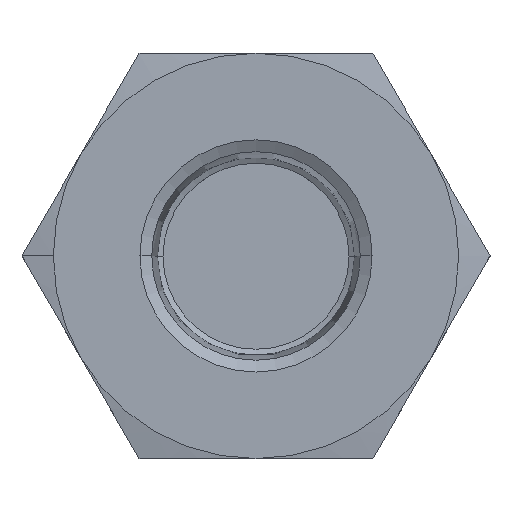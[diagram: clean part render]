
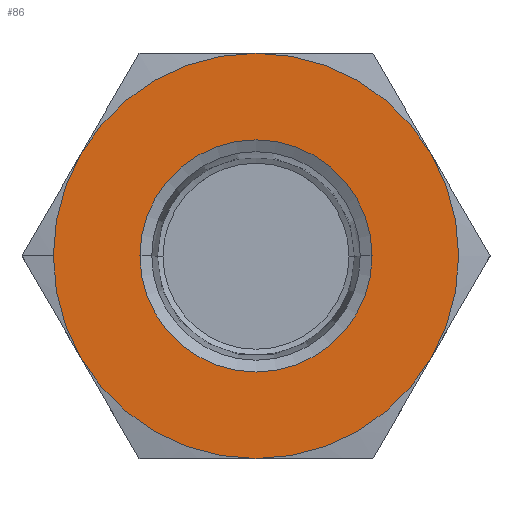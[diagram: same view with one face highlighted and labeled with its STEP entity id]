
A CAD part, top view. The second image highlights one B-rep face of the part: STEP entity #86.
In plain terms, the highlighted planar face has unit normal (0, 0, 1).
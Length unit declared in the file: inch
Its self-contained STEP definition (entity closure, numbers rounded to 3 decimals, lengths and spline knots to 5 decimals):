
#35 = ORIENTED_EDGE ( 'NONE', *, *, #733, .F. ) ;
#46 = CARTESIAN_POINT ( 'NONE',  ( 0., 0., 0.31 ) ) ;
#57 = DIRECTION ( 'NONE',  ( 1., 0., 0. ) ) ;
#86 = ADVANCED_FACE ( 'NONE', ( #382, #1095 ), #1036, .T. ) ;
#91 = DIRECTION ( 'NONE',  ( 0., 0., -1. ) ) ;
#104 = CIRCLE ( 'NONE', #908, 1.1875 ) ;
#131 = DIRECTION ( 'NONE',  ( 0., 0., 1. ) ) ;
#174 = CARTESIAN_POINT ( 'NONE',  ( 1.02841, 0.59375, 0.31 ) ) ;
#181 = ORIENTED_EDGE ( 'NONE', *, *, #753, .F. ) ;
#202 = DIRECTION ( 'NONE',  ( 0., 0., -1. ) ) ;
#210 = DIRECTION ( 'NONE',  ( 1., 0., 0. ) ) ;
#219 = CARTESIAN_POINT ( 'NONE',  ( -1.02841, -0.59375, 0.31 ) ) ;
#231 = ORIENTED_EDGE ( 'NONE', *, *, #1056, .T. ) ;
#247 = VERTEX_POINT ( 'NONE', #219 ) ;
#254 = CARTESIAN_POINT ( 'NONE',  ( 0., -1.1875, 0.31 ) ) ;
#323 = CIRCLE ( 'NONE', #561, 1.1875 ) ;
#352 = AXIS2_PLACEMENT_3D ( 'NONE', #1651, #704, #1805 ) ;
#365 = CIRCLE ( 'NONE', #1947, 1.1875 ) ;
#382 = FACE_BOUND ( 'NONE', #1372, .T. ) ;
#461 = AXIS2_PLACEMENT_3D ( 'NONE', #1008, #91, #1173 ) ;
#490 = ORIENTED_EDGE ( 'NONE', *, *, #813, .T. ) ;
#545 = DIRECTION ( 'NONE',  ( 0., 0., -1. ) ) ;
#551 = VERTEX_POINT ( 'NONE', #174 ) ;
#561 = AXIS2_PLACEMENT_3D ( 'NONE', #658, #1758, #810 ) ;
#587 = CARTESIAN_POINT ( 'NONE',  ( 0., 0., 0.31 ) ) ;
#604 = CIRCLE ( 'NONE', #461, 1.1875 ) ;
#642 = EDGE_CURVE ( 'NONE', #551, #1224, #1339, .T. ) ;
#650 = EDGE_CURVE ( 'NONE', #1577, #551, #104, .T. ) ;
#658 = CARTESIAN_POINT ( 'NONE',  ( 0., 0., 0.31 ) ) ;
#661 = CIRCLE ( 'NONE', #818, 0.68024 ) ;
#666 = DIRECTION ( 'NONE',  ( 0., 0., -1. ) ) ;
#704 = DIRECTION ( 'NONE',  ( 0., 0., -1. ) ) ;
#729 = CIRCLE ( 'NONE', #352, 1.1875 ) ;
#733 = EDGE_CURVE ( 'NONE', #1618, #1577, #365, .T. ) ;
#739 = DIRECTION ( 'NONE',  ( -1., 0., 0. ) ) ;
#753 = EDGE_CURVE ( 'NONE', #1730, #1618, #729, .T. ) ;
#757 = EDGE_CURVE ( 'NONE', #791, #247, #604, .T. ) ;
#760 = AXIS2_PLACEMENT_3D ( 'NONE', #1610, #666, #1764 ) ;
#768 = AXIS2_PLACEMENT_3D ( 'NONE', #903, #131, #1977 ) ;
#779 = EDGE_CURVE ( 'NONE', #1224, #791, #323, .T. ) ;
#791 = VERTEX_POINT ( 'NONE', #254 ) ;
#796 = AXIS2_PLACEMENT_3D ( 'NONE', #1117, #202, #1285 ) ;
#810 = DIRECTION ( 'NONE',  ( 1., 0., 0. ) ) ;
#813 = EDGE_CURVE ( 'NONE', #924, #1864, #1083, .T. ) ;
#818 = AXIS2_PLACEMENT_3D ( 'NONE', #587, #1691, #739 ) ;
#837 = EDGE_LOOP ( 'NONE', ( #1362, #1762, #1018, #35, #181, #949, #1713 ) ) ;
#846 = EDGE_CURVE ( 'NONE', #247, #1730, #1409, .T. ) ;
#903 = CARTESIAN_POINT ( 'NONE',  ( -2.05681, -1.1875, 0.31 ) ) ;
#908 = AXIS2_PLACEMENT_3D ( 'NONE', #46, #1126, #210 ) ;
#924 = VERTEX_POINT ( 'NONE', #1645 ) ;
#949 = ORIENTED_EDGE ( 'NONE', *, *, #846, .F. ) ;
#981 = DIRECTION ( 'NONE',  ( 0., 0., -1. ) ) ;
#1008 = CARTESIAN_POINT ( 'NONE',  ( 0., 0., 0.31 ) ) ;
#1018 = ORIENTED_EDGE ( 'NONE', *, *, #650, .F. ) ;
#1036 = PLANE ( 'NONE',  #768 ) ;
#1056 = EDGE_CURVE ( 'NONE', #1864, #924, #661, .T. ) ;
#1083 = CIRCLE ( 'NONE', #760, 0.68024 ) ;
#1095 = FACE_OUTER_BOUND ( 'NONE', #837, .T. ) ;
#1117 = CARTESIAN_POINT ( 'NONE',  ( 0., 0., 0.31 ) ) ;
#1126 = DIRECTION ( 'NONE',  ( 0., 0., -1. ) ) ;
#1162 = CARTESIAN_POINT ( 'NONE',  ( 0.68024, 0., 0.31 ) ) ;
#1173 = DIRECTION ( 'NONE',  ( 1., 0., 0. ) ) ;
#1179 = AXIS2_PLACEMENT_3D ( 'NONE', #1912, #981, #57 ) ;
#1224 = VERTEX_POINT ( 'NONE', #1276 ) ;
#1276 = CARTESIAN_POINT ( 'NONE',  ( 1.02841, -0.59375, 0.31 ) ) ;
#1285 = DIRECTION ( 'NONE',  ( 1., 0., 0. ) ) ;
#1339 = CIRCLE ( 'NONE', #796, 1.1875 ) ;
#1362 = ORIENTED_EDGE ( 'NONE', *, *, #779, .F. ) ;
#1372 = EDGE_LOOP ( 'NONE', ( #231, #490 ) ) ;
#1409 = CIRCLE ( 'NONE', #1179, 1.1875 ) ;
#1412 = CARTESIAN_POINT ( 'NONE',  ( -1.02841, 0.59375, 0.31 ) ) ;
#1476 = CARTESIAN_POINT ( 'NONE',  ( 0., 0., 0.31 ) ) ;
#1577 = VERTEX_POINT ( 'NONE', #1868 ) ;
#1610 = CARTESIAN_POINT ( 'NONE',  ( 0., 0., 0.31 ) ) ;
#1617 = CARTESIAN_POINT ( 'NONE',  ( -1.1875, 0., 0.31 ) ) ;
#1618 = VERTEX_POINT ( 'NONE', #1412 ) ;
#1643 = DIRECTION ( 'NONE',  ( -1., 0., 0. ) ) ;
#1645 = CARTESIAN_POINT ( 'NONE',  ( -0.68024, 0., 0.31 ) ) ;
#1651 = CARTESIAN_POINT ( 'NONE',  ( 0., 0., 0.31 ) ) ;
#1691 = DIRECTION ( 'NONE',  ( 0., 0., -1. ) ) ;
#1713 = ORIENTED_EDGE ( 'NONE', *, *, #757, .F. ) ;
#1730 = VERTEX_POINT ( 'NONE', #1617 ) ;
#1758 = DIRECTION ( 'NONE',  ( 0., 0., -1. ) ) ;
#1762 = ORIENTED_EDGE ( 'NONE', *, *, #642, .F. ) ;
#1764 = DIRECTION ( 'NONE',  ( -1., 0., 0. ) ) ;
#1805 = DIRECTION ( 'NONE',  ( 1., 0., 0. ) ) ;
#1864 = VERTEX_POINT ( 'NONE', #1162 ) ;
#1868 = CARTESIAN_POINT ( 'NONE',  ( 0., 1.1875, 0.31 ) ) ;
#1912 = CARTESIAN_POINT ( 'NONE',  ( 0., 0., 0.31 ) ) ;
#1947 = AXIS2_PLACEMENT_3D ( 'NONE', #1476, #545, #1643 ) ;
#1977 = DIRECTION ( 'NONE',  ( 1., 0., 0. ) ) ;
